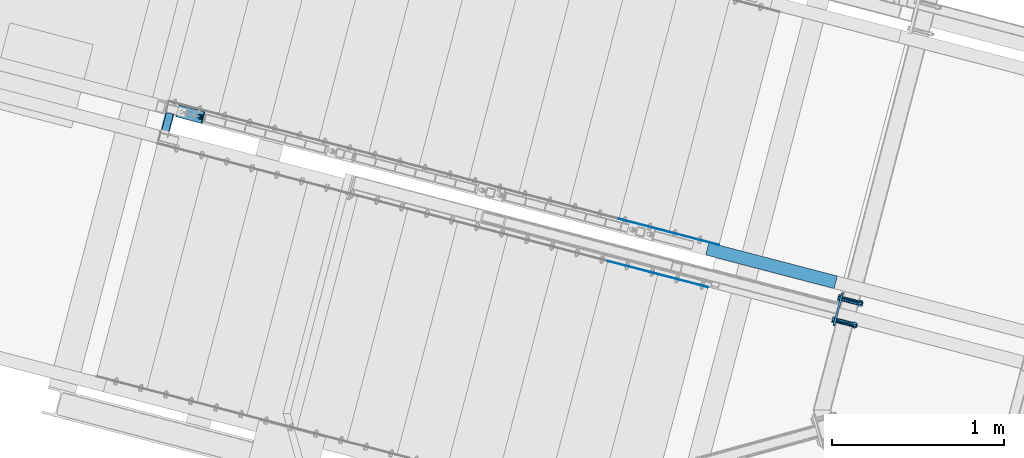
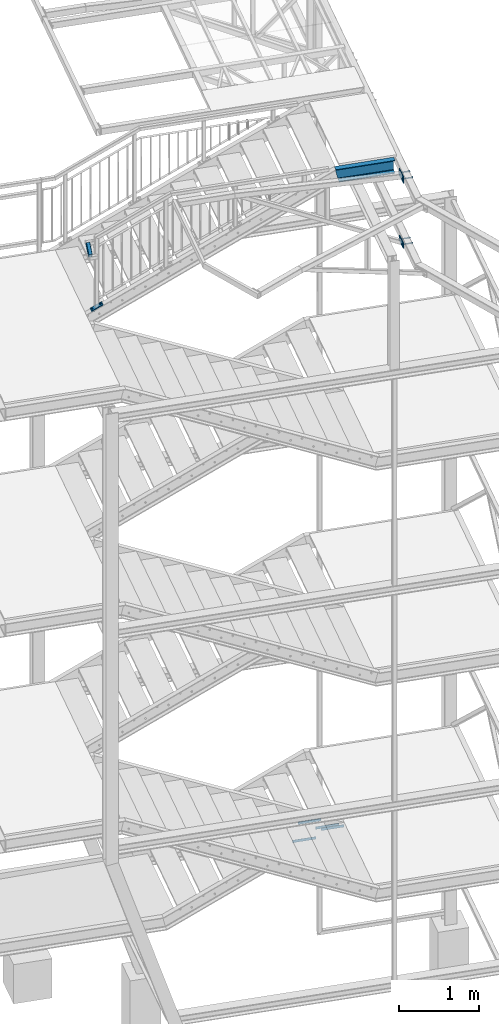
# One storey, part 70 of 169: 9 discrete accessories, 3 mechanical fasteners, 8 elements without a shape of their own.
"""IFC2X3 building model written with IfcOpenShell, lengths in millimetres."""

from ifc_helpers import new_model, si_unit, frame, frame_2d, origin_with_axes, origin_2d_with_axis, place, context, subcontext, project, spatial, polyline, circle_curve, parameter, trimmed, segment, composite_curve, rectangle, hollow_rectangle, circle, u_section, outline, extrude, boolean, clip, halfspace, source, transform, mapped, material, type_object, element, aggregate, save


model = new_model("IFC2X3")

# Units and contexts
model_context = context("Model", 3, precision=1e-05, world=origin_with_axes())
body_context = subcontext(model_context, "Body", "Model", "MODEL_VIEW")
ifc_project = project(units=[si_unit("LENGTHUNIT", "METRE", prefix="MILLI"), si_unit("AREAUNIT", "SQUARE_METRE"), si_unit("VOLUMEUNIT", "CUBIC_METRE"), si_unit("MASSUNIT", "GRAM", prefix="KILO"), si_unit("TIMEUNIT", "SECOND"), si_unit("PLANEANGLEUNIT", "RADIAN"), si_unit("SOLIDANGLEUNIT", "STERADIAN"), si_unit("THERMODYNAMICTEMPERATUREUNIT", "DEGREE_CELSIUS"), si_unit("LUMINOUSINTENSITYUNIT", "LUMEN")], contexts=[model_context])

# Site, building, storey
site_placement = place(None, origin_with_axes())
site = spatial("IfcSite", under=ifc_project, at=site_placement, Name="Undefined", CompositionType="ELEMENT")
building_placement = place(site_placement, origin_with_axes())
building = spatial("IfcBuilding", under=site, at=building_placement, Name="Undefined", CompositionType="ELEMENT")
storey_placement = place(building_placement, origin_with_axes())
storey = spatial("IfcBuildingStorey", under=building, at=storey_placement, Name="Undefined", CompositionType="ELEMENT", Elevation=0.0)

# Assembly, discrete accessories
assembly_1_placement = place(storey_placement, origin_with_axes())
assembly_1 = element("IfcElementAssembly", 1, at=assembly_1_placement, inside=storey, Name="Steel Assembly", AssemblyPlace="NOTDEFINED", PredefinedType="RIGID_FRAME")
ifc_material_1 = material(Name="STEEL/S235")
discrete_accessory_type_1 = type_object("IfcDiscreteAccessoryType", Name="BLACHA")
discrete_accessory_1_placement = place(assembly_1_placement, frame((-24060.1064964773, 6107.888240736, 13831.1077613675), z_axis=(-0.967563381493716, 0.252628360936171, -0.000118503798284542), x_axis=(0.252628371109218, 0.967563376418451, -0.000136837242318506)))
discrete_accessory_1 = element("IfcDiscreteAccessory", 2, at=discrete_accessory_1_placement, type_object=discrete_accessory_type_1, material=ifc_material_1, Name="BLACHA", ObjectType="BL12*100", context=body_context, shape_type="SweptSolid", body=[
    extrude(outline(polyline([(-2.8421709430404e-11, 50.0000000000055), (200.000000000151, 50.0000000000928), (200.000000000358, -49.9999999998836), (2.75122147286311e-11, -50.0000000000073), (-2.8421709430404e-11, 50.0000000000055)])), frame((-1.81898942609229e-12, -1.81898940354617e-12, -5.99999999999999), z_axis=(0.0, 0.0, 1.0), x_axis=(1.0, 0.0, 0.0)), (0.0, 0.0, 1.0), 12.0),
])
discrete_accessory_2_placement = place(assembly_1_placement, frame((-24034.9037071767, 6204.42905620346, 12861.9381343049), z_axis=(-0.967563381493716, 0.252628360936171, -0.000118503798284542), x_axis=(8.00909999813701e-05, -0.000162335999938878, -0.999999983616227)))
discrete_accessory_2 = element("IfcDiscreteAccessory", 3, at=discrete_accessory_2_placement, type_object=discrete_accessory_type_1, material=ifc_material_1, Name="BLACHA", ObjectType="BL12*180", context=body_context, shape_type="SweptSolid", body=[
    extrude(outline(polyline([(80.0011139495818, 89.9999999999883), (80.0011139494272, -90.0000000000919), (6.18456397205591e-11, -90.0), (-6.3664629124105e-11, 90.0000000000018), (80.0011139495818, 89.9999999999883)])), frame((-1.81898942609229e-12, -1.81898940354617e-12, -5.99999999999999), z_axis=(0.0, 0.0, 1.0), x_axis=(1.0, 0.0, 0.0)), (0.0, 0.0, 1.0), 12.0),
])

# Assembly, discrete accessory
assembly_2_placement = place(storey_placement, origin_with_axes())
assembly_2 = element("IfcElementAssembly", 4, at=assembly_2_placement, inside=storey, Name="Steel Assembly", AssemblyPlace="NOTDEFINED", PredefinedType="RIGID_FRAME")
discrete_accessory_3_placement = place(assembly_2_placement, frame((-27800.370441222, 7301.30794932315, 12459.2371499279), z_axis=(-0.432715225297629, 0.11294923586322, 0.894427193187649), x_axis=(0.252628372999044, 0.967563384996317, 3.42100000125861e-05)))
discrete_accessory_3 = element("IfcDiscreteAccessory", 5, at=discrete_accessory_3_placement, type_object=discrete_accessory_type_1, material=ifc_material_1, Name="BLACHA", ObjectType="BL12*170", context=body_context, shape_type="SweptSolid", body=[
    extrude(outline(polyline([(5.82076609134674e-11, 84.99999999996), (70.0000000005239, 84.9999999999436), (70.0000000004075, -84.9999999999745), (-5.82076609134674e-11, -84.99999999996), (5.82076609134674e-11, 84.99999999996)])), frame((-1.81898942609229e-12, -1.81898940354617e-12, -5.99999999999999), z_axis=(0.0, 0.0, 1.0), x_axis=(1.0, 0.0, 0.0)), (0.0, 0.0, 1.0), 12.0),
])

assembly_3_placement = place(storey_placement, origin_with_axes())
assembly_3 = element("IfcElementAssembly", 6, at=assembly_3_placement, inside=storey, Name="Steel Assembly", AssemblyPlace="NOTDEFINED", PredefinedType="RIGID_FRAME")
discrete_accessory_type_2 = type_object("IfcDiscreteAccessoryType", Name="PORĘCZ")
discrete_accessory_4_placement = place(assembly_3_placement, frame((-27907.4840314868, 7356.86124958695, 13461.4738469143), z_axis=(0.967519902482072, -0.252794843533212, 7.33764279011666e-05), x_axis=(-0.189312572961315, -0.724746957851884, -0.662497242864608)))
discrete_accessory_4 = element("IfcDiscreteAccessory", 7, at=discrete_accessory_4_placement, type_object=discrete_accessory_type_2, material=ifc_material_1, Name="PORĘCZ", ObjectType="RHS50*3", context=body_context, shape_type="CSG", body=[
    boolean("DIFFERENCE", boolean("DIFFERENCE", extrude(hollow_rectangle(XDim=50.0, YDim=50.0, WallThickness=3.0, InnerFilletRadius=3.0, OuterFilletRadius=6.0, at=origin_2d_with_axis()), frame((226.563690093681, -1.84414302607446e-12, -3.64068392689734e-12), z_axis=(-1.0, -3.46944695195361e-18, -1.38777878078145e-17), x_axis=(1.73472347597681e-18, -1.0, 0.0)), (0.0, 0.0, 1.0), 226.56), extrude(hollow_rectangle(XDim=50.0, YDim=50.0, WallThickness=3.0, InnerFilletRadius=3.0, OuterFilletRadius=6.0, at=origin_2d_with_axis()), frame((-2.15572136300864, 10.2836769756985, -25.0127425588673), z_axis=(-0.000175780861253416, 0.000253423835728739, 0.999999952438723), x_axis=(-0.662599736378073, -0.748973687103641, 7.33354358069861e-05)), (0.0, 0.0, 1.0), 110.0)), halfspace(frame((160.374596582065, -25.0064903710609, 0.00649374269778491), z_axis=(0.935254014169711, -0.353977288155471, 9.19213899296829e-05), x_axis=(7.59482645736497e-11, 0.000259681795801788, 0.999999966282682)), False)),
])
aggregate(assembly_3, [discrete_accessory_4])

assembly_4_placement = place(storey_placement, origin_with_axes())
assembly_4 = element("IfcElementAssembly", 8, at=assembly_4_placement, inside=storey, Name="Steel Assembly", AssemblyPlace="NOTDEFINED", PredefinedType="RIGID_FRAME")
ifc_material_2 = material(Name="STEEL/S235JR")
discrete_accessory_type_3 = type_object("IfcDiscreteAccessoryType", Name="ANGLE")
discrete_accessory_5_placement = place(assembly_4_placement, frame((-25370.8248706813, 6483.40626201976, 4230.32164420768), z_axis=(-0.252694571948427, -0.96754609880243, 0.0), x_axis=(0.96754609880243, -0.252694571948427, 0.0)))
discrete_accessory_5 = element("IfcDiscreteAccessory", 9, at=discrete_accessory_5_placement, type_object=discrete_accessory_type_3, material=ifc_material_2, Name="ANGLE", ObjectType="3*40", context=body_context, shape_type="SweptSolid", body=[
    extrude(rectangle(XDim=40.0, YDim=3.0, at=origin_2d_with_axis()), frame((300.000000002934, 1.81898940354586e-12, -1.81898940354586e-12), z_axis=(-1.0, -3.46944695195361e-18, -1.38777878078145e-17), x_axis=(1.73472347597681e-18, -1.0, 0.0)), (0.0, 0.0, 1.0), 300.0),
])
aggregate(assembly_4, [discrete_accessory_5])

assembly_5_placement = place(storey_placement, origin_with_axes())
assembly_5 = element("IfcElementAssembly", 10, at=assembly_5_placement, inside=storey, Name="Steel Assembly", AssemblyPlace="NOTDEFINED", PredefinedType="RIGID_FRAME")
discrete_accessory_6_placement = place(assembly_5_placement, frame((-25080.5610376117, 6407.59788966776, 4080.3216442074), z_axis=(-0.252694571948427, -0.96754609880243, 0.0), x_axis=(0.96754609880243, -0.252694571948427, 0.0)))
discrete_accessory_6 = element("IfcDiscreteAccessory", 11, at=discrete_accessory_6_placement, type_object=discrete_accessory_type_3, material=ifc_material_2, Name="ANGLE", ObjectType="3*40", context=body_context, shape_type="SweptSolid", body=[
    extrude(rectangle(XDim=40.0, YDim=3.0, at=origin_2d_with_axis()), frame((300.000000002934, 1.81898940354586e-12, -1.81898940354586e-12), z_axis=(-1.0, -3.46944695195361e-18, -1.38777878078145e-17), x_axis=(1.73472347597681e-18, -1.0, 0.0)), (0.0, 0.0, 1.0), 300.0),
])
aggregate(assembly_5, [discrete_accessory_6])

assembly_6_placement = place(storey_placement, origin_with_axes())
assembly_6 = element("IfcElementAssembly", 12, at=assembly_6_placement, inside=storey, Name="Steel Assembly", AssemblyPlace="NOTDEFINED", PredefinedType="RIGID_FRAME")
discrete_accessory_7_placement = place(assembly_6_placement, frame((-24726.3822143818, 6576.5830381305, 3930.09587439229), z_axis=(0.252562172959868, 0.967580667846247, 0.0), x_axis=(-0.967580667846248, 0.252562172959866, 0.0)))
discrete_accessory_7 = element("IfcDiscreteAccessory", 13, at=discrete_accessory_7_placement, type_object=discrete_accessory_type_3, material=ifc_material_2, Name="ANGLE", ObjectType="3*40", context=body_context, shape_type="SweptSolid", body=[
    extrude(rectangle(XDim=40.0, YDim=3.0, at=origin_2d_with_axis()), frame((300.000000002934, 1.81898940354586e-12, -1.81898940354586e-12), z_axis=(-1.0, -3.46944695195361e-18, -1.38777878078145e-17), x_axis=(1.73472347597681e-18, -1.0, 0.0)), (0.0, 0.0, 1.0), 300.0),
])
aggregate(assembly_6, [discrete_accessory_7])

assembly_7_placement = place(storey_placement, origin_with_axes())
assembly_7 = element("IfcElementAssembly", 14, at=assembly_7_placement, inside=storey, Name="Steel Assembly", AssemblyPlace="NOTDEFINED", PredefinedType="RIGID_FRAME")
discrete_accessory_8_placement = place(assembly_7_placement, frame((-25016.6564181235, 6652.35169093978, 3780.09587439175), z_axis=(0.252562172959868, 0.967580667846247, 0.0), x_axis=(-0.967580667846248, 0.252562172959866, 0.0)))
discrete_accessory_8 = element("IfcDiscreteAccessory", 15, at=discrete_accessory_8_placement, type_object=discrete_accessory_type_3, material=ifc_material_2, Name="ANGLE", ObjectType="3*40", context=body_context, shape_type="SweptSolid", body=[
    extrude(rectangle(XDim=40.0, YDim=3.0, at=origin_2d_with_axis()), frame((300.000000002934, 1.81898940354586e-12, -1.81898940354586e-12), z_axis=(-1.0, -3.46944695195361e-18, -1.38777878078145e-17), x_axis=(1.73472347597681e-18, -1.0, 0.0)), (0.0, 0.0, 1.0), 300.0),
])
aggregate(assembly_7, [discrete_accessory_8])

assembly_8_placement = place(storey_placement, origin_with_axes())
assembly_8 = element("IfcElementAssembly", 16, at=assembly_8_placement, inside=storey, Name="Steel Assembly", AssemblyPlace="NOTDEFINED", PredefinedType="RIGID_FRAME")
discrete_accessory_type_4 = type_object("IfcDiscreteAccessoryType", Name="BELKA")
discrete_accessory_9_placement = place(assembly_8_placement, frame((-24793.9447658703, 6555.3118727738, 13900.095770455), z_axis=(0.0, 0.0, 1.0), x_axis=(0.967580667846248, -0.252562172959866, 0.0)))
discrete_accessory_9 = element("IfcDiscreteAccessory", 17, at=discrete_accessory_9_placement, type_object=discrete_accessory_type_4, material=ifc_material_1, Name="BELKA", ObjectType="UPN200", context=body_context, shape_type="Clipping", body=[
    clip(extrude(u_section(Depth=200.0, FlangeWidth=75.0, WebThickness=8.5, FlangeThickness=11.5, FilletRadius=11.5, EdgeRadius=6.0, at=origin_2d_with_axis()), frame((769.999999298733, 0.0, 0.0), z_axis=(-1.0, -3.46944695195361e-18, -1.38777878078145e-17), x_axis=(1.73472347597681e-18, -1.0, 0.0)), (0.0, 0.0, 1.0), 807.26), halfspace(frame((3.32713170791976e-06, -37.5000000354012, 100.000000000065), z_axis=(-0.973248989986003, -3.54065919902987e-15, -0.229752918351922), x_axis=(1.73472347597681e-18, -1.0, 0.0)), False)),
])
aggregate(assembly_8, [discrete_accessory_9])

# Mechanical fastener
ifc_material_3 = material(Name="Undefined")
discrete_accessory_type_5 = type_object("IfcDiscreteAccessoryType", Name="Bolt assembly")
shared_shape_1 = source(origin_with_axes(), body_context, "Body", "SweptSolid", [
    extrude(circle(Radius=9.5, at=origin_2d_with_axis()), frame((0.0, 3.89999843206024, 0.0), z_axis=(0.0, 1.0, 0.0), x_axis=(1.0, 0.0, 0.0)), (0.0, 0.0, 1.0), 100.1),
    extrude(outline(composite_curve([segment(polyline([(9.5, 10.0), (9.5, -10.0)]), True, "CONTINUOUS"), segment(trimmed(circle_curve(frame_2d((0.0, -10.0), x_axis=(1.0, 0.0)), 9.5), [parameter(0.0)], [parameter(3.14159265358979)], False, "PARAMETER"), True, "CONTINUOUS"), segment(polyline([(-9.5, -10.0), (-9.5, 10.0)]), True, "CONTINUOUS"), segment(trimmed(circle_curve(frame_2d((0.0, 10.0), x_axis=(-1.0, 0.0)), 9.5), [parameter(0.0)], [parameter(3.14159265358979)], False, "PARAMETER"), True, "DISCONTINUOUS")], self_intersect=False)), frame((0.0, -8.89999998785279, 0.0), z_axis=(0.0, 1.0, 0.0), x_axis=(1.0, 0.0, 0.0)), (0.0, 0.0, 1.0), 12.0),
    extrude(outline(polyline([(13.85640646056, 0.0), (6.92820323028, 12.0000000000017), (-6.92820323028, 12.0000000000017), (-13.85640646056, 0.0), (-6.92820323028, -12.0000000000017), (6.92820323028, -12.0000000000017), (13.85640646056, 0.0)])), frame((0.0, -21.9999999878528, 0.0), z_axis=(0.0, 1.0, 0.0), x_axis=(1.0, 0.0, 0.0)), (0.0, 0.0, 1.0), 10.0),
    extrude(circle(Radius=8.0, at=origin_2d_with_axis()), frame((0.0, -11.9999999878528, 0.0), z_axis=(0.0, 1.0, 0.0), x_axis=(1.0, 0.0, 0.0)), (0.0, 0.0, 1.0), 140.0),
    extrude(circle(Radius=15.0, at=origin_2d_with_axis()), frame((0.0, -11.9999999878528, 0.0), z_axis=(0.0, 1.0, 0.0), x_axis=(1.0, 0.0, 0.0)), (0.0, 0.0, 1.0), 3.0),
    extrude(circle(Radius=15.0, at=origin_2d_with_axis()), frame((0.0, 103.999998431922, 0.0), z_axis=(0.0, 1.0, 0.0), x_axis=(1.0, 0.0, 0.0)), (0.0, 0.0, 1.0), 3.0),
    extrude(outline(polyline([(13.85640646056, 0.0), (6.92820323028, 12.0000000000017), (-6.92820323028, 12.0000000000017), (-13.85640646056, 0.0), (-6.92820323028, -12.0000000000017), (6.92820323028, -12.0000000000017), (13.85640646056, 0.0)])), frame((0.0, 106.999998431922, 0.0), z_axis=(0.0, 1.0, 0.0), x_axis=(1.0, 0.0, 0.0)), (0.0, 0.0, 1.0), 13.0),
])
mechanical_fastener_1_placement = place(assembly_1_placement, frame((-24014.2569821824, 6271.61612936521, 13831.0848545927), z_axis=(-8.00909999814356e-05, 0.000162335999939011, 0.999999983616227), x_axis=(-0.252628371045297, -0.967563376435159, 0.000136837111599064)))
mechanical_fastener_1 = element("IfcMechanicalFastener", 18, at=mechanical_fastener_1_placement, type_object=discrete_accessory_type_5, material=ifc_material_3, Name="Bolt assembly", NominalDiameter=16.0, NominalLength=140.0, context=body_context, shape_type="MappedRepresentation", body=[
    mapped(shared_shape_1, transform((0.0, 0.0, 0.0))),
    mapped(shared_shape_1, transform((139.999999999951, -4.15525391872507e-11, -3.09228198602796e-11))),
])

shared_shape_2 = source(origin_with_axes(), body_context, "Body", "SweptSolid", [
    extrude(circle(Radius=9.5, at=origin_2d_with_axis()), frame((0.0, 3.89999843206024, 0.0), z_axis=(0.0, 1.0, 0.0), x_axis=(1.0, 0.0, 0.0)), (0.0, 0.0, 1.0), 100.1),
    extrude(outline(composite_curve([segment(polyline([(-10.0, 9.5), (10.0, 9.5)]), True, "CONTINUOUS"), segment(trimmed(circle_curve(frame_2d((10.0, 0.0), x_axis=(0.0, 1.0)), 9.5), [parameter(0.0)], [parameter(3.14159265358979)], False, "PARAMETER"), True, "CONTINUOUS"), segment(polyline([(10.0, -9.5), (-10.0, -9.5)]), True, "CONTINUOUS"), segment(trimmed(circle_curve(frame_2d((-10.0, 0.0), x_axis=(0.0, -1.0)), 9.5), [parameter(0.0)], [parameter(3.14159265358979)], False, "PARAMETER"), True, "DISCONTINUOUS")], self_intersect=False)), frame((0.0, -8.89999998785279, 0.0), z_axis=(0.0, 1.0, 0.0), x_axis=(1.0, 0.0, 0.0)), (0.0, 0.0, 1.0), 12.0),
    extrude(outline(polyline([(13.85640646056, 0.0), (6.92820323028, 12.0000000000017), (-6.92820323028, 12.0000000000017), (-13.85640646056, 0.0), (-6.92820323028, -12.0000000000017), (6.92820323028, -12.0000000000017), (13.85640646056, 0.0)])), frame((0.0, -21.9999999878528, 0.0), z_axis=(0.0, 1.0, 0.0), x_axis=(1.0, 0.0, 0.0)), (0.0, 0.0, 1.0), 10.0),
    extrude(circle(Radius=8.0, at=origin_2d_with_axis()), frame((0.0, -11.9999999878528, 0.0), z_axis=(0.0, 1.0, 0.0), x_axis=(1.0, 0.0, 0.0)), (0.0, 0.0, 1.0), 140.0),
    extrude(circle(Radius=15.0, at=origin_2d_with_axis()), frame((0.0, -11.9999999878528, 0.0), z_axis=(0.0, 1.0, 0.0), x_axis=(1.0, 0.0, 0.0)), (0.0, 0.0, 1.0), 3.0),
    extrude(circle(Radius=15.0, at=origin_2d_with_axis()), frame((0.0, 103.999998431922, 0.0), z_axis=(0.0, 1.0, 0.0), x_axis=(1.0, 0.0, 0.0)), (0.0, 0.0, 1.0), 3.0),
    extrude(outline(polyline([(13.85640646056, 0.0), (6.92820323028, 12.0000000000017), (-6.92820323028, 12.0000000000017), (-13.85640646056, 0.0), (-6.92820323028, -12.0000000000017), (6.92820323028, -12.0000000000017), (13.85640646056, 0.0)])), frame((0.0, 106.999998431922, 0.0), z_axis=(0.0, 1.0, 0.0), x_axis=(1.0, 0.0, 0.0)), (0.0, 0.0, 1.0), 13.0),
])
mechanical_fastener_2_placement = place(assembly_1_placement, frame((-24031.997813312, 6203.66467751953, 12821.93737602), z_axis=(0.252628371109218, 0.967563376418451, -0.000136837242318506), x_axis=(-8.00909999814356e-05, 0.000162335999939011, 0.999999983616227)))
mechanical_fastener_2 = element("IfcMechanicalFastener", 19, at=mechanical_fastener_2_placement, type_object=discrete_accessory_type_5, material=ifc_material_3, Name="Bolt assembly", NominalDiameter=16.0, NominalLength=140.0, context=body_context, shape_type="MappedRepresentation", body=[
    mapped(shared_shape_2, transform((1.18234311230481e-11, 9.20081788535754e-11, -60.0000000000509))),
    mapped(shared_shape_2, transform((-1.2732925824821e-11, -9.20223897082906e-11, 60.0000000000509))),
])

aggregate(assembly_1, [mechanical_fastener_1, discrete_accessory_1, mechanical_fastener_2, discrete_accessory_2])

shared_shape_3 = source(origin_with_axes(), body_context, "Body", "SweptSolid", [
    extrude(outline(composite_curve([segment(polyline([(-7.5, 7.5), (7.5, 7.5)]), True, "CONTINUOUS"), segment(trimmed(circle_curve(frame_2d((7.5, 0.0), x_axis=(0.0, 1.0)), 7.5), [parameter(0.0)], [parameter(3.14159265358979)], False, "PARAMETER"), True, "CONTINUOUS"), segment(polyline([(7.5, -7.5), (-7.5, -7.5)]), True, "CONTINUOUS"), segment(trimmed(circle_curve(frame_2d((-7.5, 0.0), x_axis=(0.0, -1.0)), 7.5), [parameter(0.0)], [parameter(3.14159265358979)], False, "PARAMETER"), True, "DISCONTINUOUS")], self_intersect=False)), frame((0.0, 0.649999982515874, 0.0), z_axis=(0.0, 1.0, 0.0), x_axis=(1.0, 0.0, 0.0)), (0.0, 0.0, 1.0), 11.6),
    extrude(outline(composite_curve([segment(polyline([(7.5, 7.5), (7.5, -7.5)]), True, "CONTINUOUS"), segment(trimmed(circle_curve(frame_2d((0.0, -7.5), x_axis=(1.0, 0.0)), 7.5), [parameter(0.0)], [parameter(3.14159265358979)], False, "PARAMETER"), True, "CONTINUOUS"), segment(polyline([(-7.5, -7.5), (-7.5, 7.5)]), True, "CONTINUOUS"), segment(trimmed(circle_curve(frame_2d((0.0, 7.5), x_axis=(-1.0, 0.0)), 7.5), [parameter(0.0)], [parameter(3.14159265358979)], False, "PARAMETER"), True, "DISCONTINUOUS")], self_intersect=False)), frame((0.0, -12.1500000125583, 0.0), z_axis=(0.0, 1.0, 0.0), x_axis=(1.0, 0.0, 0.0)), (0.0, 0.0, 1.0), 12.0),
    extrude(outline(polyline([(10.39230484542, 0.0), (5.19615242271, 9.00000000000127), (-5.19615242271, 9.00000000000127), (-10.39230484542, 0.0), (-5.19615242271, -9.00000000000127), (5.19615242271, -9.00000000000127), (10.39230484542, 0.0)])), frame((0.0, -22.7500000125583, 0.0), z_axis=(0.0, 1.0, 0.0), x_axis=(1.0, 0.0, 0.0)), (0.0, 0.0, 1.0), 7.5),
    extrude(circle(Radius=6.0, at=origin_2d_with_axis()), frame((0.0, -15.2500000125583, 0.0), z_axis=(0.0, 1.0, 0.0), x_axis=(1.0, 0.0, 0.0)), (0.0, 0.0, 1.0), 50.0),
    extrude(circle(Radius=12.0, at=origin_2d_with_axis()), frame((0.0, -15.2500000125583, 0.0), z_axis=(0.0, 1.0, 0.0), x_axis=(1.0, 0.0, 0.0)), (0.0, 0.0, 1.0), 3.0),
    extrude(circle(Radius=12.0, at=origin_2d_with_axis()), frame((0.0, 12.2499999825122, 0.0), z_axis=(0.0, 1.0, 0.0), x_axis=(1.0, 0.0, 0.0)), (0.0, 0.0, 1.0), 3.0),
    extrude(outline(polyline([(10.96965511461, 0.0), (5.484827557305, 9.50000000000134), (-5.484827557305, 9.50000000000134), (-10.96965511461, 0.0), (-5.484827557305, -9.50000000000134), (5.484827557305, -9.50000000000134), (10.96965511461, 0.0)])), frame((0.0, 15.2499999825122, 0.0), z_axis=(0.0, 1.0, 0.0), x_axis=(1.0, 0.0, 0.0)), (0.0, 0.0, 1.0), 10.0),
])
mechanical_fastener_3_placement = place(assembly_2_placement, frame((-27782.5082685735, 7358.6558200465, 12453.6490325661), z_axis=(0.86541113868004, -0.22597248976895, 0.447213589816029), x_axis=(-0.252628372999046, -0.967563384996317, -3.42099999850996e-05)))
mechanical_fastener_3 = element("IfcMechanicalFastener", 20, at=mechanical_fastener_3_placement, type_object=discrete_accessory_type_5, material=ifc_material_3, Name="Bolt assembly", NominalDiameter=12.0, NominalLength=50.0, context=body_context, shape_type="MappedRepresentation", body=[
    mapped(shared_shape_3, transform((24.9999999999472, 0.0, -60.0000000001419))),
    mapped(shared_shape_3, transform((24.9999999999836, -3.54702933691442e-11, 60.0000000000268))),
])

aggregate(assembly_2, [mechanical_fastener_3, discrete_accessory_3])

save(model, "model.ifc")
